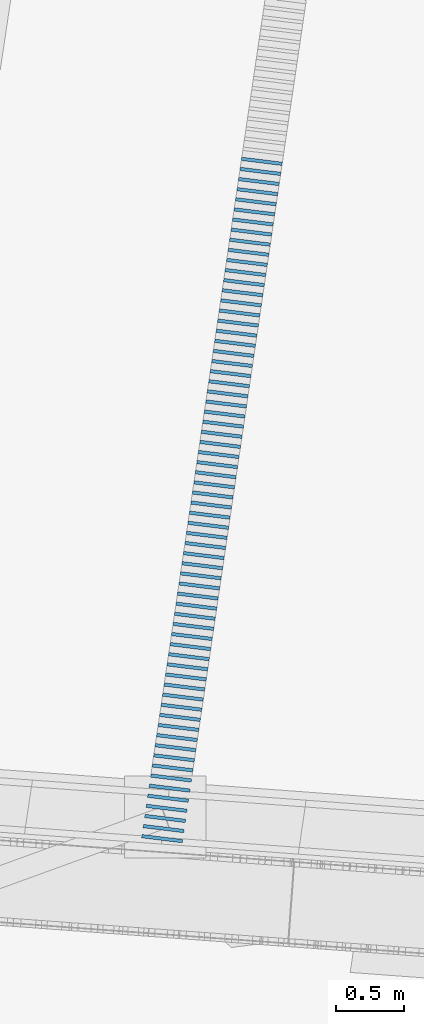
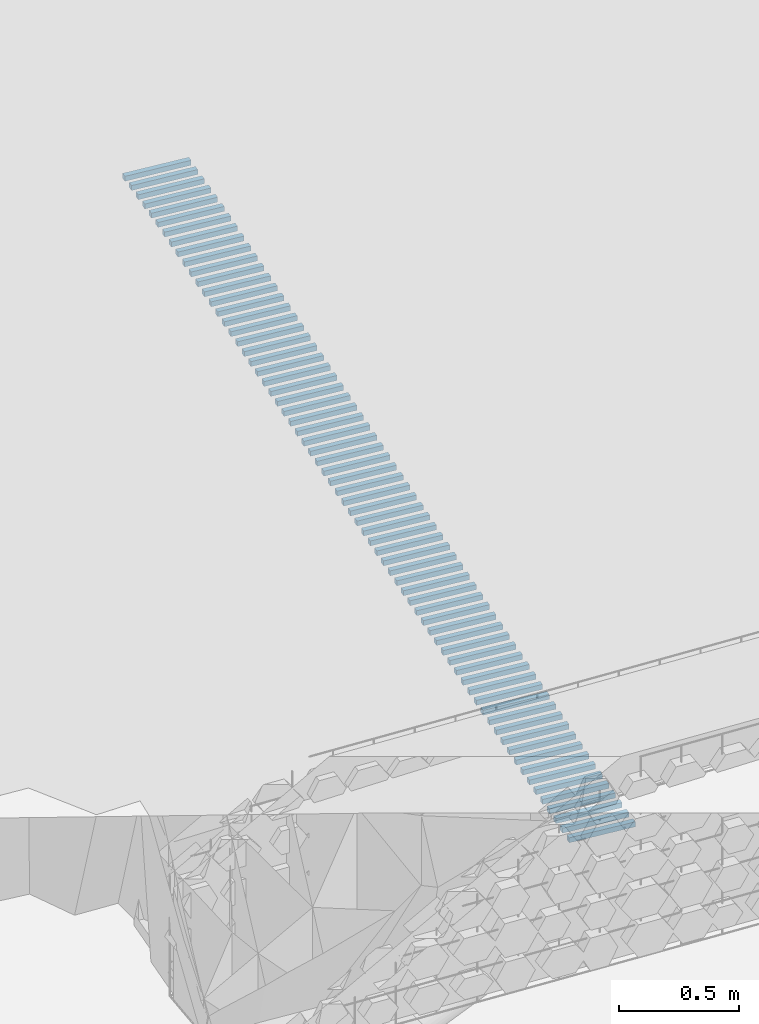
# Not in any storey, part 1 of 46: 68 members.
"""IFC4 model written with IfcOpenShell, lengths in metres."""

from ifc_helpers import new_model, si_unit, direction, frame, origin_with_axes, place, context, subcontext, project, spatial, rectangle, extrude, material, material_profile, profile_set, profile_usage, type_object, element, save


model = new_model("IFC4")

# Units and contexts
model_context = context("Model", 3, precision=1e-05, world=origin_with_axes(), true_north=direction((0.0, 1.0)))
body_context = subcontext(model_context, "Body", "Model", "MODEL_VIEW")
ifc_project = project(units=[si_unit("VOLUMEUNIT", "CUBIC_METRE"), si_unit("LENGTHUNIT", "METRE"), si_unit("AREAUNIT", "SQUARE_METRE")], contexts=[model_context])

# Site
site_placement = place(None, origin_with_axes())
site = spatial("IfcSite", under=ifc_project, at=site_placement, Name="Lares · Rua das Mercês · artigo 4771")

# Members
ifc_material = material(Name="Aço galvanizado / Stahl verzinkt", Category="steel")
ifc_material_profile = material_profile(ifc_material, rectangle(XDim=0.025, YDim=0.025))
ifc_profile_set = profile_set([ifc_material_profile], Name="R0.025")
ifc_profile_usage_1 = profile_usage(ifc_profile_set)
member_type = type_object("IfcMemberType", Name="R0.025 / galvanized", PredefinedType="NOTDEFINED", material=ifc_profile_set)
member_1_placement = place(site_placement, frame((48.4356506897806, 2.65750240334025, 13.5829738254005), z_axis=(0.992517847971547, -0.122099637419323, 0.0), x_axis=(-0.122099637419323, -0.992517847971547, 0.0)))
element("IfcMember", 1, at=member_1_placement, inside=site, type_object=member_type, material=ifc_profile_usage_1, Name="Interceção · grelha estacionamento", context=body_context, shape_type="SweptSolid", body=[
    extrude(rectangle(XDim=0.025, YDim=0.025), origin_with_axes(), (0.0, 0.0, 1.0), 0.300000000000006),
])
ifc_profile_usage_2 = profile_usage(ifc_profile_set)
member_2_placement = place(site_placement, frame((48.446576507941, 2.73170231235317, 13.5829738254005), z_axis=(0.992517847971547, -0.122099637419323, 0.0), x_axis=(-0.122099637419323, -0.992517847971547, 0.0)))
element("IfcMember", 2, at=member_2_placement, inside=site, type_object=member_type, material=ifc_profile_usage_2, Name="Interceção · grelha estacionamento", context=body_context, shape_type="SweptSolid", body=[
    extrude(rectangle(XDim=0.025, YDim=0.025), origin_with_axes(), (0.0, 0.0, 1.0), 0.300000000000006),
])
ifc_profile_usage_3 = profile_usage(ifc_profile_set)
member_3_placement = place(site_placement, frame((48.4575023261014, 2.80590222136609, 13.5829738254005), z_axis=(0.992517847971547, -0.122099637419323, 0.0), x_axis=(-0.122099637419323, -0.992517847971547, 0.0)))
element("IfcMember", 3, at=member_3_placement, inside=site, type_object=member_type, material=ifc_profile_usage_3, Name="Interceção · grelha estacionamento", context=body_context, shape_type="SweptSolid", body=[
    extrude(rectangle(XDim=0.025, YDim=0.025), origin_with_axes(), (0.0, 0.0, 1.0), 0.300000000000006),
])
ifc_profile_usage_4 = profile_usage(ifc_profile_set)
member_4_placement = place(site_placement, frame((48.4684281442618, 2.88010213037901, 13.5829738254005), z_axis=(0.992517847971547, -0.122099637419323, 0.0), x_axis=(-0.122099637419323, -0.992517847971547, 0.0)))
element("IfcMember", 4, at=member_4_placement, inside=site, type_object=member_type, material=ifc_profile_usage_4, Name="Interceção · grelha estacionamento", context=body_context, shape_type="SweptSolid", body=[
    extrude(rectangle(XDim=0.025, YDim=0.025), origin_with_axes(), (0.0, 0.0, 1.0), 0.300000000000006),
])
ifc_profile_usage_5 = profile_usage(ifc_profile_set)
member_5_placement = place(site_placement, frame((48.4793539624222, 2.95430203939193, 13.5829738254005), z_axis=(0.992517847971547, -0.122099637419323, 0.0), x_axis=(-0.122099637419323, -0.992517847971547, 0.0)))
element("IfcMember", 5, at=member_5_placement, inside=site, type_object=member_type, material=ifc_profile_usage_5, Name="Interceção · grelha estacionamento", context=body_context, shape_type="SweptSolid", body=[
    extrude(rectangle(XDim=0.025, YDim=0.025), origin_with_axes(), (0.0, 0.0, 1.0), 0.300000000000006),
])
ifc_profile_usage_6 = profile_usage(ifc_profile_set)
member_6_placement = place(site_placement, frame((48.4902797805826, 3.02850194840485, 13.5829738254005), z_axis=(0.992517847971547, -0.122099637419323, 0.0), x_axis=(-0.122099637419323, -0.992517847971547, 0.0)))
element("IfcMember", 6, at=member_6_placement, inside=site, type_object=member_type, material=ifc_profile_usage_6, Name="Interceção · grelha estacionamento", context=body_context, shape_type="SweptSolid", body=[
    extrude(rectangle(XDim=0.025, YDim=0.025), origin_with_axes(), (0.0, 0.0, 1.0), 0.300000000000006),
])
ifc_profile_usage_7 = profile_usage(ifc_profile_set)
member_7_placement = place(site_placement, frame((48.501205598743, 3.10270185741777, 13.5837238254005), z_axis=(0.992517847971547, -0.122099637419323, 0.0), x_axis=(-0.122099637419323, -0.992517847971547, 0.0)))
element("IfcMember", 7, at=member_7_placement, inside=site, type_object=member_type, material=ifc_profile_usage_7, Name="Interceção · grelha estacionamento", context=body_context, shape_type="SweptSolid", body=[
    extrude(rectangle(XDim=0.025, YDim=0.025), origin_with_axes(), (0.0, 0.0, 1.0), 0.300000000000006),
])
ifc_profile_usage_8 = profile_usage(ifc_profile_set)
member_8_placement = place(site_placement, frame((48.5121314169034, 3.17690176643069, 13.5855988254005), z_axis=(0.992517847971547, -0.122099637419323, 0.0), x_axis=(-0.122099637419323, -0.992517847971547, 0.0)))
element("IfcMember", 8, at=member_8_placement, inside=site, type_object=member_type, material=ifc_profile_usage_8, Name="Interceção · grelha estacionamento", context=body_context, shape_type="SweptSolid", body=[
    extrude(rectangle(XDim=0.025, YDim=0.025), origin_with_axes(), (0.0, 0.0, 1.0), 0.300000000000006),
])
ifc_profile_usage_9 = profile_usage(ifc_profile_set)
member_9_placement = place(site_placement, frame((48.5230572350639, 3.25110167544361, 13.5874738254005), z_axis=(0.992517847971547, -0.122099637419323, 0.0), x_axis=(-0.122099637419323, -0.992517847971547, 0.0)))
element("IfcMember", 9, at=member_9_placement, inside=site, type_object=member_type, material=ifc_profile_usage_9, Name="Interceção · grelha estacionamento", context=body_context, shape_type="SweptSolid", body=[
    extrude(rectangle(XDim=0.025, YDim=0.025), origin_with_axes(), (0.0, 0.0, 1.0), 0.300000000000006),
])
ifc_profile_usage_10 = profile_usage(ifc_profile_set)
member_10_placement = place(site_placement, frame((48.5339830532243, 3.32530158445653, 13.5893488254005), z_axis=(0.992517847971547, -0.122099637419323, 0.0), x_axis=(-0.122099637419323, -0.992517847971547, 0.0)))
element("IfcMember", 10, at=member_10_placement, inside=site, type_object=member_type, material=ifc_profile_usage_10, Name="Interceção · grelha estacionamento", context=body_context, shape_type="SweptSolid", body=[
    extrude(rectangle(XDim=0.025, YDim=0.025), origin_with_axes(), (0.0, 0.0, 1.0), 0.300000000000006),
])
ifc_profile_usage_11 = profile_usage(ifc_profile_set)
member_11_placement = place(site_placement, frame((48.5449088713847, 3.39950149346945, 13.5912238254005), z_axis=(0.992517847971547, -0.122099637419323, 0.0), x_axis=(-0.122099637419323, -0.992517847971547, 0.0)))
element("IfcMember", 11, at=member_11_placement, inside=site, type_object=member_type, material=ifc_profile_usage_11, Name="Interceção · grelha estacionamento", context=body_context, shape_type="SweptSolid", body=[
    extrude(rectangle(XDim=0.025, YDim=0.025), origin_with_axes(), (0.0, 0.0, 1.0), 0.300000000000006),
])
ifc_profile_usage_12 = profile_usage(ifc_profile_set)
member_12_placement = place(site_placement, frame((48.5558346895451, 3.47370140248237, 13.5930988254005), z_axis=(0.992517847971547, -0.122099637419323, 0.0), x_axis=(-0.122099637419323, -0.992517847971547, 0.0)))
element("IfcMember", 12, at=member_12_placement, inside=site, type_object=member_type, material=ifc_profile_usage_12, Name="Interceção · grelha estacionamento", context=body_context, shape_type="SweptSolid", body=[
    extrude(rectangle(XDim=0.025, YDim=0.025), origin_with_axes(), (0.0, 0.0, 1.0), 0.300000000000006),
])
ifc_profile_usage_13 = profile_usage(ifc_profile_set)
member_13_placement = place(site_placement, frame((48.5667605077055, 3.54790131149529, 13.5949738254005), z_axis=(0.992517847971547, -0.122099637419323, 0.0), x_axis=(-0.122099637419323, -0.992517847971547, 0.0)))
element("IfcMember", 13, at=member_13_placement, inside=site, type_object=member_type, material=ifc_profile_usage_13, Name="Interceção · grelha estacionamento", context=body_context, shape_type="SweptSolid", body=[
    extrude(rectangle(XDim=0.025, YDim=0.025), origin_with_axes(), (0.0, 0.0, 1.0), 0.300000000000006),
])
ifc_profile_usage_14 = profile_usage(ifc_profile_set)
member_14_placement = place(site_placement, frame((48.5776863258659, 3.62210122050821, 13.5968488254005), z_axis=(0.992517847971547, -0.122099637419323, 0.0), x_axis=(-0.122099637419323, -0.992517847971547, 0.0)))
element("IfcMember", 14, at=member_14_placement, inside=site, type_object=member_type, material=ifc_profile_usage_14, Name="Interceção · grelha estacionamento", context=body_context, shape_type="SweptSolid", body=[
    extrude(rectangle(XDim=0.025, YDim=0.025), origin_with_axes(), (0.0, 0.0, 1.0), 0.300000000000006),
])
ifc_profile_usage_15 = profile_usage(ifc_profile_set)
member_15_placement = place(site_placement, frame((48.5886121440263, 3.69630112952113, 13.5987238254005), z_axis=(0.992517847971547, -0.122099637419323, 0.0), x_axis=(-0.122099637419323, -0.992517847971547, 0.0)))
element("IfcMember", 15, at=member_15_placement, inside=site, type_object=member_type, material=ifc_profile_usage_15, Name="Interceção · grelha estacionamento", context=body_context, shape_type="SweptSolid", body=[
    extrude(rectangle(XDim=0.025, YDim=0.025), origin_with_axes(), (0.0, 0.0, 1.0), 0.300000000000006),
])
ifc_profile_usage_16 = profile_usage(ifc_profile_set)
member_16_placement = place(site_placement, frame((48.5995379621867, 3.77050103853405, 13.6005988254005), z_axis=(0.992517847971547, -0.122099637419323, 0.0), x_axis=(-0.122099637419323, -0.992517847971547, 0.0)))
element("IfcMember", 16, at=member_16_placement, inside=site, type_object=member_type, material=ifc_profile_usage_16, Name="Interceção · grelha estacionamento", context=body_context, shape_type="SweptSolid", body=[
    extrude(rectangle(XDim=0.025, YDim=0.025), origin_with_axes(), (0.0, 0.0, 1.0), 0.300000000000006),
])
ifc_profile_usage_17 = profile_usage(ifc_profile_set)
member_17_placement = place(site_placement, frame((48.6104637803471, 3.84470094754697, 13.6024738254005), z_axis=(0.992517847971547, -0.122099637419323, 0.0), x_axis=(-0.122099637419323, -0.992517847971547, 0.0)))
element("IfcMember", 17, at=member_17_placement, inside=site, type_object=member_type, material=ifc_profile_usage_17, Name="Interceção · grelha estacionamento", context=body_context, shape_type="SweptSolid", body=[
    extrude(rectangle(XDim=0.025, YDim=0.025), origin_with_axes(), (0.0, 0.0, 1.0), 0.300000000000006),
])
ifc_profile_usage_18 = profile_usage(ifc_profile_set)
member_18_placement = place(site_placement, frame((48.6213895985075, 3.91890085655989, 13.6043488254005), z_axis=(0.992517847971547, -0.122099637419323, 0.0), x_axis=(-0.122099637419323, -0.992517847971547, 0.0)))
element("IfcMember", 18, at=member_18_placement, inside=site, type_object=member_type, material=ifc_profile_usage_18, Name="Interceção · grelha estacionamento", context=body_context, shape_type="SweptSolid", body=[
    extrude(rectangle(XDim=0.025, YDim=0.025), origin_with_axes(), (0.0, 0.0, 1.0), 0.300000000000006),
])
ifc_profile_usage_19 = profile_usage(ifc_profile_set)
member_19_placement = place(site_placement, frame((48.632315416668, 3.99310076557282, 13.6062238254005), z_axis=(0.992517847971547, -0.122099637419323, 0.0), x_axis=(-0.122099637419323, -0.992517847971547, 0.0)))
element("IfcMember", 19, at=member_19_placement, inside=site, type_object=member_type, material=ifc_profile_usage_19, Name="Interceção · grelha estacionamento", context=body_context, shape_type="SweptSolid", body=[
    extrude(rectangle(XDim=0.025, YDim=0.025), origin_with_axes(), (0.0, 0.0, 1.0), 0.300000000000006),
])
ifc_profile_usage_20 = profile_usage(ifc_profile_set)
member_20_placement = place(site_placement, frame((48.6432412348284, 4.06730067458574, 13.6080988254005), z_axis=(0.992517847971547, -0.12209963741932, 0.0), x_axis=(-0.12209963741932, -0.992517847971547, 0.0)))
element("IfcMember", 20, at=member_20_placement, inside=site, type_object=member_type, material=ifc_profile_usage_20, Name="Interceção · grelha estacionamento", context=body_context, shape_type="SweptSolid", body=[
    extrude(rectangle(XDim=0.025, YDim=0.025), origin_with_axes(), (0.0, 0.0, 1.0), 0.300000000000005),
])
ifc_profile_usage_21 = profile_usage(ifc_profile_set)
member_21_placement = place(site_placement, frame((48.6541670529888, 4.14150058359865, 13.6099738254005), z_axis=(0.992517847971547, -0.12209963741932, 0.0), x_axis=(-0.12209963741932, -0.992517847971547, 0.0)))
element("IfcMember", 21, at=member_21_placement, inside=site, type_object=member_type, material=ifc_profile_usage_21, Name="Interceção · grelha estacionamento", context=body_context, shape_type="SweptSolid", body=[
    extrude(rectangle(XDim=0.025, YDim=0.025), origin_with_axes(), (0.0, 0.0, 1.0), 0.300000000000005),
])
ifc_profile_usage_22 = profile_usage(ifc_profile_set)
member_22_placement = place(site_placement, frame((48.6650928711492, 4.21570049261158, 13.6118488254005), z_axis=(0.992517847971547, -0.12209963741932, 0.0), x_axis=(-0.12209963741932, -0.992517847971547, 0.0)))
element("IfcMember", 22, at=member_22_placement, inside=site, type_object=member_type, material=ifc_profile_usage_22, Name="Interceção · grelha estacionamento", context=body_context, shape_type="SweptSolid", body=[
    extrude(rectangle(XDim=0.025, YDim=0.025), origin_with_axes(), (0.0, 0.0, 1.0), 0.300000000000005),
])
ifc_profile_usage_23 = profile_usage(ifc_profile_set)
member_23_placement = place(site_placement, frame((48.6760186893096, 4.28990040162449, 13.6137238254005), z_axis=(0.992517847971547, -0.12209963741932, 0.0), x_axis=(-0.12209963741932, -0.992517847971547, 0.0)))
element("IfcMember", 23, at=member_23_placement, inside=site, type_object=member_type, material=ifc_profile_usage_23, Name="Interceção · grelha estacionamento", context=body_context, shape_type="SweptSolid", body=[
    extrude(rectangle(XDim=0.025, YDim=0.025), origin_with_axes(), (0.0, 0.0, 1.0), 0.300000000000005),
])
ifc_profile_usage_24 = profile_usage(ifc_profile_set)
member_24_placement = place(site_placement, frame((48.68694450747, 4.36410031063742, 13.6155988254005), z_axis=(0.992517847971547, -0.12209963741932, 0.0), x_axis=(-0.12209963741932, -0.992517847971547, 0.0)))
element("IfcMember", 24, at=member_24_placement, inside=site, type_object=member_type, material=ifc_profile_usage_24, Name="Interceção · grelha estacionamento", context=body_context, shape_type="SweptSolid", body=[
    extrude(rectangle(XDim=0.025, YDim=0.025), origin_with_axes(), (0.0, 0.0, 1.0), 0.300000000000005),
])
ifc_profile_usage_25 = profile_usage(ifc_profile_set)
member_25_placement = place(site_placement, frame((48.6978703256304, 4.43830021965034, 13.6174738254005), z_axis=(0.992517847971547, -0.12209963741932, 0.0), x_axis=(-0.12209963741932, -0.992517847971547, 0.0)))
element("IfcMember", 25, at=member_25_placement, inside=site, type_object=member_type, material=ifc_profile_usage_25, Name="Interceção · grelha estacionamento", context=body_context, shape_type="SweptSolid", body=[
    extrude(rectangle(XDim=0.025, YDim=0.025), origin_with_axes(), (0.0, 0.0, 1.0), 0.300000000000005),
])
ifc_profile_usage_26 = profile_usage(ifc_profile_set)
member_26_placement = place(site_placement, frame((48.7087961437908, 4.51250012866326, 13.6193488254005), z_axis=(0.992517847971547, -0.12209963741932, 0.0), x_axis=(-0.12209963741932, -0.992517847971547, 0.0)))
element("IfcMember", 26, at=member_26_placement, inside=site, type_object=member_type, material=ifc_profile_usage_26, Name="Interceção · grelha estacionamento", context=body_context, shape_type="SweptSolid", body=[
    extrude(rectangle(XDim=0.025, YDim=0.025), origin_with_axes(), (0.0, 0.0, 1.0), 0.300000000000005),
])
ifc_profile_usage_27 = profile_usage(ifc_profile_set)
member_27_placement = place(site_placement, frame((48.7197219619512, 4.58670003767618, 13.6212238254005), z_axis=(0.992517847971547, -0.12209963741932, 0.0), x_axis=(-0.12209963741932, -0.992517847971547, 0.0)))
element("IfcMember", 27, at=member_27_placement, inside=site, type_object=member_type, material=ifc_profile_usage_27, Name="Interceção · grelha estacionamento", context=body_context, shape_type="SweptSolid", body=[
    extrude(rectangle(XDim=0.025, YDim=0.025), origin_with_axes(), (0.0, 0.0, 1.0), 0.300000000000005),
])
ifc_profile_usage_28 = profile_usage(ifc_profile_set)
member_28_placement = place(site_placement, frame((48.7306477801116, 4.6608999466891, 13.6230988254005), z_axis=(0.992517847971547, -0.12209963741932, 0.0), x_axis=(-0.12209963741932, -0.992517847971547, 0.0)))
element("IfcMember", 28, at=member_28_placement, inside=site, type_object=member_type, material=ifc_profile_usage_28, Name="Interceção · grelha estacionamento", context=body_context, shape_type="SweptSolid", body=[
    extrude(rectangle(XDim=0.025, YDim=0.025), origin_with_axes(), (0.0, 0.0, 1.0), 0.300000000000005),
])
ifc_profile_usage_29 = profile_usage(ifc_profile_set)
member_29_placement = place(site_placement, frame((48.7415735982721, 4.73509985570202, 13.6249738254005), z_axis=(0.992517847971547, -0.12209963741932, 0.0), x_axis=(-0.12209963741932, -0.992517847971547, 0.0)))
element("IfcMember", 29, at=member_29_placement, inside=site, type_object=member_type, material=ifc_profile_usage_29, Name="Interceção · grelha estacionamento", context=body_context, shape_type="SweptSolid", body=[
    extrude(rectangle(XDim=0.025, YDim=0.025), origin_with_axes(), (0.0, 0.0, 1.0), 0.300000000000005),
])
ifc_profile_usage_30 = profile_usage(ifc_profile_set)
member_30_placement = place(site_placement, frame((48.7524994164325, 4.80929976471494, 13.6268488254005), z_axis=(0.992517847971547, -0.12209963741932, 0.0), x_axis=(-0.12209963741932, -0.992517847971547, 0.0)))
element("IfcMember", 30, at=member_30_placement, inside=site, type_object=member_type, material=ifc_profile_usage_30, Name="Interceção · grelha estacionamento", context=body_context, shape_type="SweptSolid", body=[
    extrude(rectangle(XDim=0.025, YDim=0.025), origin_with_axes(), (0.0, 0.0, 1.0), 0.300000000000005),
])
ifc_profile_usage_31 = profile_usage(ifc_profile_set)
member_31_placement = place(site_placement, frame((48.7634252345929, 4.88349967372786, 13.6287238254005), z_axis=(0.992517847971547, -0.12209963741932, 0.0), x_axis=(-0.12209963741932, -0.992517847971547, 0.0)))
element("IfcMember", 31, at=member_31_placement, inside=site, type_object=member_type, material=ifc_profile_usage_31, Name="Interceção · grelha estacionamento", context=body_context, shape_type="SweptSolid", body=[
    extrude(rectangle(XDim=0.025, YDim=0.025), origin_with_axes(), (0.0, 0.0, 1.0), 0.300000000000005),
])
ifc_profile_usage_32 = profile_usage(ifc_profile_set)
member_32_placement = place(site_placement, frame((48.7743510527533, 4.95769958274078, 13.6305988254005), z_axis=(0.992517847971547, -0.12209963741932, 0.0), x_axis=(-0.12209963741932, -0.992517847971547, 0.0)))
element("IfcMember", 32, at=member_32_placement, inside=site, type_object=member_type, material=ifc_profile_usage_32, Name="Interceção · grelha estacionamento", context=body_context, shape_type="SweptSolid", body=[
    extrude(rectangle(XDim=0.025, YDim=0.025), origin_with_axes(), (0.0, 0.0, 1.0), 0.300000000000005),
])
ifc_profile_usage_33 = profile_usage(ifc_profile_set)
member_33_placement = place(site_placement, frame((48.7852768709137, 5.0318994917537, 13.6324738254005), z_axis=(0.992517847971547, -0.12209963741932, 0.0), x_axis=(-0.12209963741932, -0.992517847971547, 0.0)))
element("IfcMember", 33, at=member_33_placement, inside=site, type_object=member_type, material=ifc_profile_usage_33, Name="Interceção · grelha estacionamento", context=body_context, shape_type="SweptSolid", body=[
    extrude(rectangle(XDim=0.025, YDim=0.025), origin_with_axes(), (0.0, 0.0, 1.0), 0.300000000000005),
])
ifc_profile_usage_34 = profile_usage(ifc_profile_set)
member_34_placement = place(site_placement, frame((48.7962026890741, 5.10609940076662, 13.6343488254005), z_axis=(0.992517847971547, -0.12209963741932, 0.0), x_axis=(-0.12209963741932, -0.992517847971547, 0.0)))
element("IfcMember", 34, at=member_34_placement, inside=site, type_object=member_type, material=ifc_profile_usage_34, Name="Interceção · grelha estacionamento", context=body_context, shape_type="SweptSolid", body=[
    extrude(rectangle(XDim=0.025, YDim=0.025), origin_with_axes(), (0.0, 0.0, 1.0), 0.300000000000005),
])
ifc_profile_usage_35 = profile_usage(ifc_profile_set)
member_35_placement = place(site_placement, frame((48.8071285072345, 5.18029930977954, 13.6362238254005), z_axis=(0.992517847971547, -0.12209963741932, 0.0), x_axis=(-0.12209963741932, -0.992517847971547, 0.0)))
element("IfcMember", 35, at=member_35_placement, inside=site, type_object=member_type, material=ifc_profile_usage_35, Name="Interceção · grelha estacionamento", context=body_context, shape_type="SweptSolid", body=[
    extrude(rectangle(XDim=0.025, YDim=0.025), origin_with_axes(), (0.0, 0.0, 1.0), 0.300000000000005),
])
ifc_profile_usage_36 = profile_usage(ifc_profile_set)
member_36_placement = place(site_placement, frame((48.8180543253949, 5.25449921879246, 13.6380988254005), z_axis=(0.992517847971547, -0.12209963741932, 0.0), x_axis=(-0.12209963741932, -0.992517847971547, 0.0)))
element("IfcMember", 36, at=member_36_placement, inside=site, type_object=member_type, material=ifc_profile_usage_36, Name="Interceção · grelha estacionamento", context=body_context, shape_type="SweptSolid", body=[
    extrude(rectangle(XDim=0.025, YDim=0.025), origin_with_axes(), (0.0, 0.0, 1.0), 0.300000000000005),
])
ifc_profile_usage_37 = profile_usage(ifc_profile_set)
member_37_placement = place(site_placement, frame((48.8289801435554, 5.32869912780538, 13.6399738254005), z_axis=(0.992517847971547, -0.12209963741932, 0.0), x_axis=(-0.12209963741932, -0.992517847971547, 0.0)))
element("IfcMember", 37, at=member_37_placement, inside=site, type_object=member_type, material=ifc_profile_usage_37, Name="Interceção · grelha estacionamento", context=body_context, shape_type="SweptSolid", body=[
    extrude(rectangle(XDim=0.025, YDim=0.025), origin_with_axes(), (0.0, 0.0, 1.0), 0.300000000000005),
])
ifc_profile_usage_38 = profile_usage(ifc_profile_set)
member_38_placement = place(site_placement, frame((48.8399059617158, 5.4028990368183, 13.6418488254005), z_axis=(0.992517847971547, -0.12209963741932, 0.0), x_axis=(-0.12209963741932, -0.992517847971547, 0.0)))
element("IfcMember", 38, at=member_38_placement, inside=site, type_object=member_type, material=ifc_profile_usage_38, Name="Interceção · grelha estacionamento", context=body_context, shape_type="SweptSolid", body=[
    extrude(rectangle(XDim=0.025, YDim=0.025), origin_with_axes(), (0.0, 0.0, 1.0), 0.300000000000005),
])
ifc_profile_usage_39 = profile_usage(ifc_profile_set)
member_39_placement = place(site_placement, frame((48.8508317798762, 5.47709894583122, 13.6437238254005), z_axis=(0.992517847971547, -0.12209963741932, 0.0), x_axis=(-0.12209963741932, -0.992517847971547, 0.0)))
element("IfcMember", 39, at=member_39_placement, inside=site, type_object=member_type, material=ifc_profile_usage_39, Name="Interceção · grelha estacionamento", context=body_context, shape_type="SweptSolid", body=[
    extrude(rectangle(XDim=0.025, YDim=0.025), origin_with_axes(), (0.0, 0.0, 1.0), 0.300000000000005),
])
ifc_profile_usage_40 = profile_usage(ifc_profile_set)
member_40_placement = place(site_placement, frame((48.8617575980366, 5.55129885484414, 13.6455988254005), z_axis=(0.992517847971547, -0.12209963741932, 0.0), x_axis=(-0.12209963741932, -0.992517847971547, 0.0)))
element("IfcMember", 40, at=member_40_placement, inside=site, type_object=member_type, material=ifc_profile_usage_40, Name="Interceção · grelha estacionamento", context=body_context, shape_type="SweptSolid", body=[
    extrude(rectangle(XDim=0.025, YDim=0.025), origin_with_axes(), (0.0, 0.0, 1.0), 0.300000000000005),
])
ifc_profile_usage_41 = profile_usage(ifc_profile_set)
member_41_placement = place(site_placement, frame((48.872683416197, 5.62549876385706, 13.6474738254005), z_axis=(0.992517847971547, -0.12209963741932, 0.0), x_axis=(-0.12209963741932, -0.992517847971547, 0.0)))
element("IfcMember", 41, at=member_41_placement, inside=site, type_object=member_type, material=ifc_profile_usage_41, Name="Interceção · grelha estacionamento", context=body_context, shape_type="SweptSolid", body=[
    extrude(rectangle(XDim=0.025, YDim=0.025), origin_with_axes(), (0.0, 0.0, 1.0), 0.300000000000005),
])
ifc_profile_usage_42 = profile_usage(ifc_profile_set)
member_42_placement = place(site_placement, frame((48.8836092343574, 5.69969867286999, 13.6493488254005), z_axis=(0.992517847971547, -0.12209963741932, 0.0), x_axis=(-0.12209963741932, -0.992517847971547, 0.0)))
element("IfcMember", 42, at=member_42_placement, inside=site, type_object=member_type, material=ifc_profile_usage_42, Name="Interceção · grelha estacionamento", context=body_context, shape_type="SweptSolid", body=[
    extrude(rectangle(XDim=0.025, YDim=0.025), origin_with_axes(), (0.0, 0.0, 1.0), 0.300000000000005),
])
ifc_profile_usage_43 = profile_usage(ifc_profile_set)
member_43_placement = place(site_placement, frame((48.8945350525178, 5.7738985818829, 13.6512238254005), z_axis=(0.992517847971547, -0.12209963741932, 0.0), x_axis=(-0.12209963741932, -0.992517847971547, 0.0)))
element("IfcMember", 43, at=member_43_placement, inside=site, type_object=member_type, material=ifc_profile_usage_43, Name="Interceção · grelha estacionamento", context=body_context, shape_type="SweptSolid", body=[
    extrude(rectangle(XDim=0.025, YDim=0.025), origin_with_axes(), (0.0, 0.0, 1.0), 0.300000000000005),
])
ifc_profile_usage_44 = profile_usage(ifc_profile_set)
member_44_placement = place(site_placement, frame((48.9054608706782, 5.84809849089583, 13.6530988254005), z_axis=(0.992517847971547, -0.12209963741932, 0.0), x_axis=(-0.12209963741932, -0.992517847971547, 0.0)))
element("IfcMember", 44, at=member_44_placement, inside=site, type_object=member_type, material=ifc_profile_usage_44, Name="Interceção · grelha estacionamento", context=body_context, shape_type="SweptSolid", body=[
    extrude(rectangle(XDim=0.025, YDim=0.025), origin_with_axes(), (0.0, 0.0, 1.0), 0.300000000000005),
])
ifc_profile_usage_45 = profile_usage(ifc_profile_set)
member_45_placement = place(site_placement, frame((48.9163866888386, 5.92229839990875, 13.6549738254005), z_axis=(0.992517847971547, -0.12209963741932, 0.0), x_axis=(-0.12209963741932, -0.992517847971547, 0.0)))
element("IfcMember", 45, at=member_45_placement, inside=site, type_object=member_type, material=ifc_profile_usage_45, Name="Interceção · grelha estacionamento", context=body_context, shape_type="SweptSolid", body=[
    extrude(rectangle(XDim=0.025, YDim=0.025), origin_with_axes(), (0.0, 0.0, 1.0), 0.300000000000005),
])
ifc_profile_usage_46 = profile_usage(ifc_profile_set)
member_46_placement = place(site_placement, frame((48.9273125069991, 5.99649830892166, 13.6568488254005), z_axis=(0.992517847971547, -0.12209963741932, 0.0), x_axis=(-0.12209963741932, -0.992517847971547, 0.0)))
element("IfcMember", 46, at=member_46_placement, inside=site, type_object=member_type, material=ifc_profile_usage_46, Name="Interceção · grelha estacionamento", context=body_context, shape_type="SweptSolid", body=[
    extrude(rectangle(XDim=0.025, YDim=0.025), origin_with_axes(), (0.0, 0.0, 1.0), 0.300000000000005),
])
ifc_profile_usage_47 = profile_usage(ifc_profile_set)
member_47_placement = place(site_placement, frame((48.9382383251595, 6.07069821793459, 13.6587238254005), z_axis=(0.992517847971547, -0.12209963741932, 0.0), x_axis=(-0.12209963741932, -0.992517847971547, 0.0)))
element("IfcMember", 47, at=member_47_placement, inside=site, type_object=member_type, material=ifc_profile_usage_47, Name="Interceção · grelha estacionamento", context=body_context, shape_type="SweptSolid", body=[
    extrude(rectangle(XDim=0.025, YDim=0.025), origin_with_axes(), (0.0, 0.0, 1.0), 0.300000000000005),
])
ifc_profile_usage_48 = profile_usage(ifc_profile_set)
member_48_placement = place(site_placement, frame((48.9491641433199, 6.14489812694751, 13.6605988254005), z_axis=(0.992517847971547, -0.12209963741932, 0.0), x_axis=(-0.12209963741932, -0.992517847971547, 0.0)))
element("IfcMember", 48, at=member_48_placement, inside=site, type_object=member_type, material=ifc_profile_usage_48, Name="Interceção · grelha estacionamento", context=body_context, shape_type="SweptSolid", body=[
    extrude(rectangle(XDim=0.025, YDim=0.025), origin_with_axes(), (0.0, 0.0, 1.0), 0.300000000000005),
])
ifc_profile_usage_49 = profile_usage(ifc_profile_set)
member_49_placement = place(site_placement, frame((48.9600899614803, 6.21909803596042, 13.6624738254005), z_axis=(0.992517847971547, -0.12209963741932, 0.0), x_axis=(-0.12209963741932, -0.992517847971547, 0.0)))
element("IfcMember", 49, at=member_49_placement, inside=site, type_object=member_type, material=ifc_profile_usage_49, Name="Interceção · grelha estacionamento", context=body_context, shape_type="SweptSolid", body=[
    extrude(rectangle(XDim=0.025, YDim=0.025), origin_with_axes(), (0.0, 0.0, 1.0), 0.300000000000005),
])
ifc_profile_usage_50 = profile_usage(ifc_profile_set)
member_50_placement = place(site_placement, frame((48.9710157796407, 6.29329794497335, 13.6643488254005), z_axis=(0.992517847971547, -0.12209963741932, 0.0), x_axis=(-0.12209963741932, -0.992517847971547, 0.0)))
element("IfcMember", 50, at=member_50_placement, inside=site, type_object=member_type, material=ifc_profile_usage_50, Name="Interceção · grelha estacionamento", context=body_context, shape_type="SweptSolid", body=[
    extrude(rectangle(XDim=0.025, YDim=0.025), origin_with_axes(), (0.0, 0.0, 1.0), 0.300000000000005),
])
ifc_profile_usage_51 = profile_usage(ifc_profile_set)
member_51_placement = place(site_placement, frame((48.9819415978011, 6.36749785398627, 13.6662238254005), z_axis=(0.992517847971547, -0.12209963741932, 0.0), x_axis=(-0.12209963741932, -0.992517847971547, 0.0)))
element("IfcMember", 51, at=member_51_placement, inside=site, type_object=member_type, material=ifc_profile_usage_51, Name="Interceção · grelha estacionamento", context=body_context, shape_type="SweptSolid", body=[
    extrude(rectangle(XDim=0.025, YDim=0.025), origin_with_axes(), (0.0, 0.0, 1.0), 0.300000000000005),
])
ifc_profile_usage_52 = profile_usage(ifc_profile_set)
member_52_placement = place(site_placement, frame((48.9928674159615, 6.44169776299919, 13.6680988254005), z_axis=(0.992517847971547, -0.12209963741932, 0.0), x_axis=(-0.12209963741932, -0.992517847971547, 0.0)))
element("IfcMember", 52, at=member_52_placement, inside=site, type_object=member_type, material=ifc_profile_usage_52, Name="Interceção · grelha estacionamento", context=body_context, shape_type="SweptSolid", body=[
    extrude(rectangle(XDim=0.025, YDim=0.025), origin_with_axes(), (0.0, 0.0, 1.0), 0.300000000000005),
])
ifc_profile_usage_53 = profile_usage(ifc_profile_set)
member_53_placement = place(site_placement, frame((49.0037932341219, 6.51589767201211, 13.6699738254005), z_axis=(0.992517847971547, -0.12209963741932, 0.0), x_axis=(-0.12209963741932, -0.992517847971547, 0.0)))
element("IfcMember", 53, at=member_53_placement, inside=site, type_object=member_type, material=ifc_profile_usage_53, Name="Interceção · grelha estacionamento", context=body_context, shape_type="SweptSolid", body=[
    extrude(rectangle(XDim=0.025, YDim=0.025), origin_with_axes(), (0.0, 0.0, 1.0), 0.300000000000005),
])
ifc_profile_usage_54 = profile_usage(ifc_profile_set)
member_54_placement = place(site_placement, frame((49.0147190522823, 6.59009758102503, 13.6718488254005), z_axis=(0.992517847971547, -0.12209963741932, 0.0), x_axis=(-0.12209963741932, -0.992517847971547, 0.0)))
element("IfcMember", 54, at=member_54_placement, inside=site, type_object=member_type, material=ifc_profile_usage_54, Name="Interceção · grelha estacionamento", context=body_context, shape_type="SweptSolid", body=[
    extrude(rectangle(XDim=0.025, YDim=0.025), origin_with_axes(), (0.0, 0.0, 1.0), 0.300000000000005),
])
ifc_profile_usage_55 = profile_usage(ifc_profile_set)
member_55_placement = place(site_placement, frame((49.0256448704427, 6.66429749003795, 13.6737238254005), z_axis=(0.992517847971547, -0.12209963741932, 0.0), x_axis=(-0.12209963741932, -0.992517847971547, 0.0)))
element("IfcMember", 55, at=member_55_placement, inside=site, type_object=member_type, material=ifc_profile_usage_55, Name="Interceção · grelha estacionamento", context=body_context, shape_type="SweptSolid", body=[
    extrude(rectangle(XDim=0.025, YDim=0.025), origin_with_axes(), (0.0, 0.0, 1.0), 0.300000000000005),
])
ifc_profile_usage_56 = profile_usage(ifc_profile_set)
member_56_placement = place(site_placement, frame((49.0365706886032, 6.73849739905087, 13.6755988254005), z_axis=(0.992517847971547, -0.12209963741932, 0.0), x_axis=(-0.12209963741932, -0.992517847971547, 0.0)))
element("IfcMember", 56, at=member_56_placement, inside=site, type_object=member_type, material=ifc_profile_usage_56, Name="Interceção · grelha estacionamento", context=body_context, shape_type="SweptSolid", body=[
    extrude(rectangle(XDim=0.025, YDim=0.025), origin_with_axes(), (0.0, 0.0, 1.0), 0.300000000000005),
])
ifc_profile_usage_57 = profile_usage(ifc_profile_set)
member_57_placement = place(site_placement, frame((49.0474965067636, 6.81269730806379, 13.6774738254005), z_axis=(0.992517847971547, -0.12209963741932, 0.0), x_axis=(-0.12209963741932, -0.992517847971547, 0.0)))
element("IfcMember", 57, at=member_57_placement, inside=site, type_object=member_type, material=ifc_profile_usage_57, Name="Interceção · grelha estacionamento", context=body_context, shape_type="SweptSolid", body=[
    extrude(rectangle(XDim=0.025, YDim=0.025), origin_with_axes(), (0.0, 0.0, 1.0), 0.300000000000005),
])
ifc_profile_usage_58 = profile_usage(ifc_profile_set)
member_58_placement = place(site_placement, frame((49.058422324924, 6.88689721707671, 13.6793488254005), z_axis=(0.992517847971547, -0.12209963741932, 0.0), x_axis=(-0.12209963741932, -0.992517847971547, 0.0)))
element("IfcMember", 58, at=member_58_placement, inside=site, type_object=member_type, material=ifc_profile_usage_58, Name="Interceção · grelha estacionamento", context=body_context, shape_type="SweptSolid", body=[
    extrude(rectangle(XDim=0.025, YDim=0.025), origin_with_axes(), (0.0, 0.0, 1.0), 0.300000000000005),
])
ifc_profile_usage_59 = profile_usage(ifc_profile_set)
member_59_placement = place(site_placement, frame((49.0693481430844, 6.96109712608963, 13.6812238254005), z_axis=(0.992517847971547, -0.12209963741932, 0.0), x_axis=(-0.12209963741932, -0.992517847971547, 0.0)))
element("IfcMember", 59, at=member_59_placement, inside=site, type_object=member_type, material=ifc_profile_usage_59, Name="Interceção · grelha estacionamento", context=body_context, shape_type="SweptSolid", body=[
    extrude(rectangle(XDim=0.025, YDim=0.025), origin_with_axes(), (0.0, 0.0, 1.0), 0.300000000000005),
])
ifc_profile_usage_60 = profile_usage(ifc_profile_set)
member_60_placement = place(site_placement, frame((49.0802739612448, 7.03529703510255, 13.6830988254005), z_axis=(0.992517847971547, -0.12209963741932, 0.0), x_axis=(-0.12209963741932, -0.992517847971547, 0.0)))
element("IfcMember", 60, at=member_60_placement, inside=site, type_object=member_type, material=ifc_profile_usage_60, Name="Interceção · grelha estacionamento", context=body_context, shape_type="SweptSolid", body=[
    extrude(rectangle(XDim=0.025, YDim=0.025), origin_with_axes(), (0.0, 0.0, 1.0), 0.300000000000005),
])
ifc_profile_usage_61 = profile_usage(ifc_profile_set)
member_61_placement = place(site_placement, frame((49.0911997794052, 7.10949694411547, 13.6849738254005), z_axis=(0.992517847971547, -0.12209963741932, 0.0), x_axis=(-0.12209963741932, -0.992517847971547, 0.0)))
element("IfcMember", 61, at=member_61_placement, inside=site, type_object=member_type, material=ifc_profile_usage_61, Name="Interceção · grelha estacionamento", context=body_context, shape_type="SweptSolid", body=[
    extrude(rectangle(XDim=0.025, YDim=0.025), origin_with_axes(), (0.0, 0.0, 1.0), 0.300000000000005),
])
ifc_profile_usage_62 = profile_usage(ifc_profile_set)
member_62_placement = place(site_placement, frame((49.1021255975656, 7.18369685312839, 13.6868488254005), z_axis=(0.992517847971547, -0.12209963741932, 0.0), x_axis=(-0.12209963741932, -0.992517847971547, 0.0)))
element("IfcMember", 62, at=member_62_placement, inside=site, type_object=member_type, material=ifc_profile_usage_62, Name="Interceção · grelha estacionamento", context=body_context, shape_type="SweptSolid", body=[
    extrude(rectangle(XDim=0.025, YDim=0.025), origin_with_axes(), (0.0, 0.0, 1.0), 0.300000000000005),
])
ifc_profile_usage_63 = profile_usage(ifc_profile_set)
member_63_placement = place(site_placement, frame((49.113051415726, 7.25789676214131, 13.6872761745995), z_axis=(0.992517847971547, -0.12209963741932, 0.0), x_axis=(-0.12209963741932, -0.992517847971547, 0.0)))
element("IfcMember", 63, at=member_63_placement, inside=site, type_object=member_type, material=ifc_profile_usage_63, Name="Interceção · grelha estacionamento", context=body_context, shape_type="SweptSolid", body=[
    extrude(rectangle(XDim=0.025, YDim=0.025), origin_with_axes(), (0.0, 0.0, 1.0), 0.300000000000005),
])
ifc_profile_usage_64 = profile_usage(ifc_profile_set)
member_64_placement = place(site_placement, frame((49.1239772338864, 7.33209667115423, 13.6854011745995), z_axis=(0.992517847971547, -0.12209963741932, 0.0), x_axis=(-0.12209963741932, -0.992517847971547, 0.0)))
element("IfcMember", 64, at=member_64_placement, inside=site, type_object=member_type, material=ifc_profile_usage_64, Name="Interceção · grelha estacionamento", context=body_context, shape_type="SweptSolid", body=[
    extrude(rectangle(XDim=0.025, YDim=0.025), origin_with_axes(), (0.0, 0.0, 1.0), 0.300000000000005),
])
ifc_profile_usage_65 = profile_usage(ifc_profile_set)
member_65_placement = place(site_placement, frame((49.1349030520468, 7.40629658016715, 13.6835261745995), z_axis=(0.992517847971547, -0.12209963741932, 0.0), x_axis=(-0.12209963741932, -0.992517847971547, 0.0)))
element("IfcMember", 65, at=member_65_placement, inside=site, type_object=member_type, material=ifc_profile_usage_65, Name="Interceção · grelha estacionamento", context=body_context, shape_type="SweptSolid", body=[
    extrude(rectangle(XDim=0.025, YDim=0.025), origin_with_axes(), (0.0, 0.0, 1.0), 0.300000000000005),
])
ifc_profile_usage_66 = profile_usage(ifc_profile_set)
member_66_placement = place(site_placement, frame((49.1458288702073, 7.48049648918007, 13.6816511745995), z_axis=(0.992517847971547, -0.12209963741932, 0.0), x_axis=(-0.12209963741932, -0.992517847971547, 0.0)))
element("IfcMember", 66, at=member_66_placement, inside=site, type_object=member_type, material=ifc_profile_usage_66, Name="Interceção · grelha estacionamento", context=body_context, shape_type="SweptSolid", body=[
    extrude(rectangle(XDim=0.025, YDim=0.025), origin_with_axes(), (0.0, 0.0, 1.0), 0.300000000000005),
])
ifc_profile_usage_67 = profile_usage(ifc_profile_set)
member_67_placement = place(site_placement, frame((49.1567546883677, 7.55469639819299, 13.6797761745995), z_axis=(0.992517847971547, -0.12209963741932, 0.0), x_axis=(-0.12209963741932, -0.992517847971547, 0.0)))
element("IfcMember", 67, at=member_67_placement, inside=site, type_object=member_type, material=ifc_profile_usage_67, Name="Interceção · grelha estacionamento", context=body_context, shape_type="SweptSolid", body=[
    extrude(rectangle(XDim=0.025, YDim=0.025), origin_with_axes(), (0.0, 0.0, 1.0), 0.300000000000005),
])
ifc_profile_usage_68 = profile_usage(ifc_profile_set)
member_68_placement = place(site_placement, frame((49.1676805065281, 7.62889630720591, 13.6779011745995), z_axis=(0.992517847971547, -0.12209963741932, 0.0), x_axis=(-0.12209963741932, -0.992517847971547, 0.0)))
element("IfcMember", 68, at=member_68_placement, inside=site, type_object=member_type, material=ifc_profile_usage_68, Name="Interceção · grelha estacionamento", context=body_context, shape_type="SweptSolid", body=[
    extrude(rectangle(XDim=0.025, YDim=0.025), origin_with_axes(), (0.0, 0.0, 1.0), 0.300000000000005),
])

save(model, "model.ifc")
